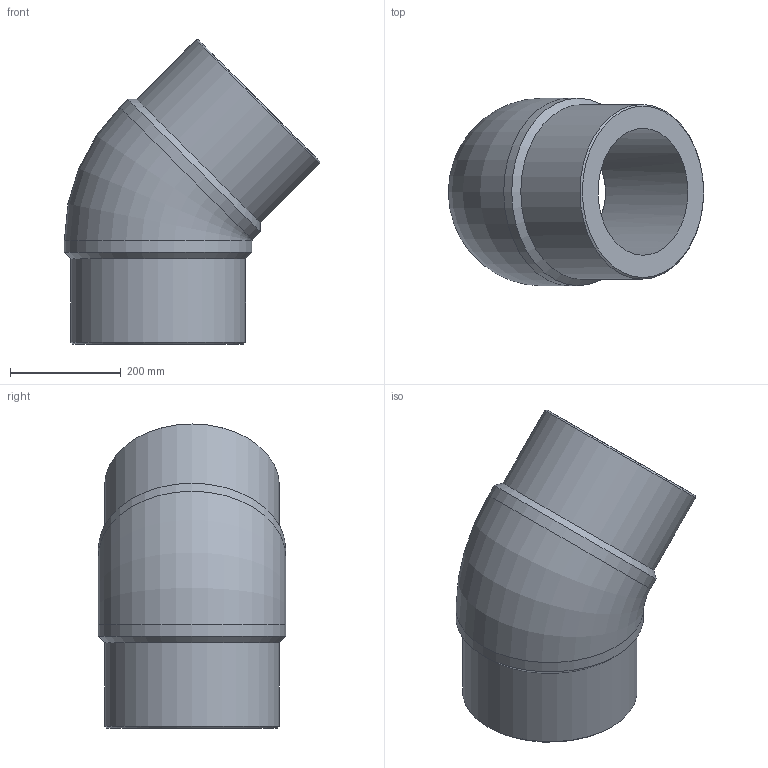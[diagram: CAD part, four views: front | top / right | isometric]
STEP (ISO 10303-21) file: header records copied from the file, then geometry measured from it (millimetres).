
FILE_DESCRIPTION(/* description */ ('Unknown'),/* implementation_level */ '2;1');
FILE_NAME(/* name */ 'G4P315H',/* time_stamp */ '2022-01-17T09:44:55+01:00',/* author */ ('Unknown'),/* organization */ ('Unknown'),/* preprocessor_version */ 'ST-DEVELOPER v18.1',/* originating_system */ 'Solid Edge',/* authorisation */ 'Unknown');
FILE_SCHEMA (('AUTOMOTIVE_DESIGN {1 0 10303 214 3 1 1}'));
Length unit declared in the file: millimetre
Products named in the file (1): G4P315H
Bounding box: 459.97 x 338 x 547.97 mm (x, y, z)
Volume: 20884649 mm3; surface area: 959199.6 mm2
Topology: 1 solids, 1 shells, 14 faces, 34 edges, 22 vertices
Faces by surface type: cylinder 6, cone 4, plane 2, torus 2
Full cylindrical faces by diameter (mm): 228.8 x2, 315 x2, 338 x2
Entity records: 372 total; most frequent: CARTESIAN_POINT 72, DIRECTION 60, ORIENTED_EDGE 38, AXIS2_PLACEMENT_3D 30, EDGE_LOOP 27, FACE_BOUND 27, EDGE_CURVE 19, VERTEX_POINT 18
